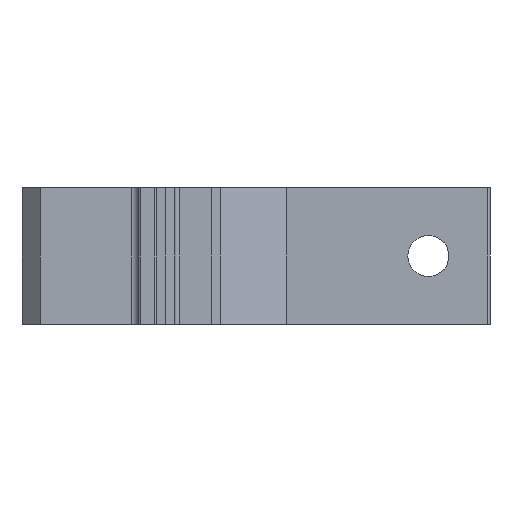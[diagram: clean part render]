
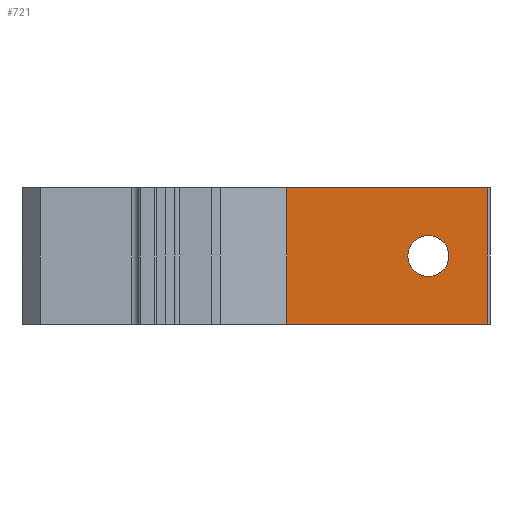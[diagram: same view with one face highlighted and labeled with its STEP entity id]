
A CAD part, left-side view. The second image highlights one B-rep face of the part: STEP entity #721.
In plain terms, the highlighted planar face has unit normal (-1, 0, 0).
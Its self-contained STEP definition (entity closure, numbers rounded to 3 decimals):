
#15 = EDGE_CURVE ( 'NONE', #40, #150, #2730, .T. ) ;
#22 = EDGE_LOOP ( 'NONE', ( #2706, #340, #1100, #1617 ) ) ;
#40 = VERTEX_POINT ( 'NONE', #1237 ) ;
#60 = DIRECTION ( 'NONE',  ( 0., 0., 1. ) ) ;
#63 = LINE ( 'NONE', #2526, #1121 ) ;
#98 = CARTESIAN_POINT ( 'NONE',  ( 33.119, -20.4, 15. ) ) ;
#150 = VERTEX_POINT ( 'NONE', #2559 ) ;
#213 = EDGE_CURVE ( 'NONE', #2374, #1817, #2575, .T. ) ;
#299 = CARTESIAN_POINT ( 'NONE',  ( 33.119, -20.4, 10.5 ) ) ;
#340 = ORIENTED_EDGE ( 'NONE', *, *, #623, .F. ) ;
#428 = CARTESIAN_POINT ( 'NONE',  ( 33.119, -33.4, 30. ) ) ;
#439 = CARTESIAN_POINT ( 'NONE',  ( 33.119, 10.628, 30. ) ) ;
#472 = DIRECTION ( 'NONE',  ( 0., -1., 0. ) ) ;
#490 = DIRECTION ( 'NONE',  ( -1., 0., 0. ) ) ;
#499 = EDGE_LOOP ( 'NONE', ( #854, #2028 ) ) ;
#623 = EDGE_CURVE ( 'NONE', #1919, #150, #2410, .T. ) ;
#640 = DIRECTION ( 'NONE',  ( 0., 1., 0. ) ) ;
#654 = VERTEX_POINT ( 'NONE', #439 ) ;
#705 = VECTOR ( 'NONE', #472, 1000. ) ;
#721 = ADVANCED_FACE ( 'NONE', ( #1831, #1576 ), #1675, .F. ) ;
#854 = ORIENTED_EDGE ( 'NONE', *, *, #213, .F. ) ;
#917 = VECTOR ( 'NONE', #2509, 1000. ) ;
#944 = DIRECTION ( 'NONE',  ( -1., 0., 0. ) ) ;
#990 = CIRCLE ( 'NONE', #1681, 4.5 ) ;
#1006 = CARTESIAN_POINT ( 'NONE',  ( 33.119, -33.4, 30. ) ) ;
#1069 = EDGE_CURVE ( 'NONE', #654, #1919, #2653, .T. ) ;
#1100 = ORIENTED_EDGE ( 'NONE', *, *, #1069, .F. ) ;
#1121 = VECTOR ( 'NONE', #1423, 1000. ) ;
#1237 = CARTESIAN_POINT ( 'NONE',  ( 33.119, 10.628, 0. ) ) ;
#1423 = DIRECTION ( 'NONE',  ( 0., 0., -1. ) ) ;
#1425 = EDGE_CURVE ( 'NONE', #654, #40, #63, .T. ) ;
#1505 = VECTOR ( 'NONE', #2318, 1000. ) ;
#1576 = FACE_OUTER_BOUND ( 'NONE', #22, .T. ) ;
#1617 = ORIENTED_EDGE ( 'NONE', *, *, #1425, .T. ) ;
#1675 = PLANE ( 'NONE',  #2339 ) ;
#1681 = AXIS2_PLACEMENT_3D ( 'NONE', #2586, #490, #60 ) ;
#1817 = VERTEX_POINT ( 'NONE', #299 ) ;
#1831 = FACE_BOUND ( 'NONE', #499, .T. ) ;
#1895 = DIRECTION ( 'NONE',  ( 1., 0., 0. ) ) ;
#1919 = VERTEX_POINT ( 'NONE', #1006 ) ;
#2028 = ORIENTED_EDGE ( 'NONE', *, *, #2684, .F. ) ;
#2072 = CARTESIAN_POINT ( 'NONE',  ( 33.119, -33.4, 0. ) ) ;
#2213 = AXIS2_PLACEMENT_3D ( 'NONE', #98, #944, #2386 ) ;
#2318 = DIRECTION ( 'NONE',  ( 0., 0., -1. ) ) ;
#2339 = AXIS2_PLACEMENT_3D ( 'NONE', #2525, #1895, #640 ) ;
#2374 = VERTEX_POINT ( 'NONE', #2433 ) ;
#2386 = DIRECTION ( 'NONE',  ( 0., 0., 1. ) ) ;
#2410 = LINE ( 'NONE', #2537, #1505 ) ;
#2433 = CARTESIAN_POINT ( 'NONE',  ( 33.119, -20.4, 19.5 ) ) ;
#2509 = DIRECTION ( 'NONE',  ( 0., -1., 0. ) ) ;
#2525 = CARTESIAN_POINT ( 'NONE',  ( 33.119, -33.4, 30. ) ) ;
#2526 = CARTESIAN_POINT ( 'NONE',  ( 33.119, 10.628, 30. ) ) ;
#2537 = CARTESIAN_POINT ( 'NONE',  ( 33.119, -33.4, 30. ) ) ;
#2559 = CARTESIAN_POINT ( 'NONE',  ( 33.119, -33.4, 0. ) ) ;
#2575 = CIRCLE ( 'NONE', #2213, 4.5 ) ;
#2586 = CARTESIAN_POINT ( 'NONE',  ( 33.119, -20.4, 15. ) ) ;
#2653 = LINE ( 'NONE', #428, #705 ) ;
#2684 = EDGE_CURVE ( 'NONE', #1817, #2374, #990, .T. ) ;
#2706 = ORIENTED_EDGE ( 'NONE', *, *, #15, .T. ) ;
#2730 = LINE ( 'NONE', #2072, #917 ) ;
